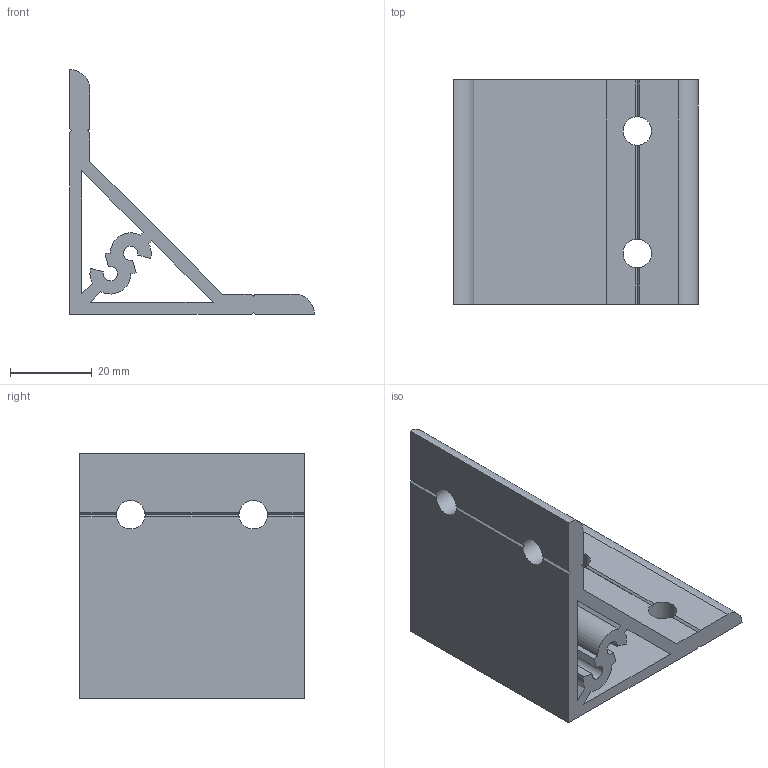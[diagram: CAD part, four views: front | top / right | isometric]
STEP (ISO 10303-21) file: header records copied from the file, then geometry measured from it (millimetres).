
FILE_DESCRIPTION(/* description */ ('Unknown'),/* implementation_level */ '2;1');
FILE_NAME(/* name */ 'AL5560',/* time_stamp */ '2026-09-17T13:24:09+08:00',/* author */ ('Unknown'),/* organization */ ('Unknown'),/* preprocessor_version */ 'ST-DEVELOPER v16.7',/* originating_system */ 'DEX',/* authorisation */ $);
FILE_SCHEMA (('AUTOMOTIVE_DESIGN {1 0 10303 214 3 1 1}'));
Length unit declared in the file: millimetre
Products named in the file (1): AL5560
Bounding box: 60 x 55 x 60 mm (x, y, z)
Volume: 37027.5 mm3; surface area: 23049.1 mm2
Topology: 1 solids, 1 shells, 61 faces, 193 edges, 126 vertices
Faces by surface type: plane 47, cylinder 14
Full cylindrical faces by diameter (mm): 7 x4
Entity records: 2185 total; most frequent: DIRECTION 381, ORIENTED_EDGE 378, CARTESIAN_POINT 377, EDGE_CURVE 189, AXIS2_PLACEMENT_3D 130, VERTEX_POINT 126, LINE 121, VECTOR 121
